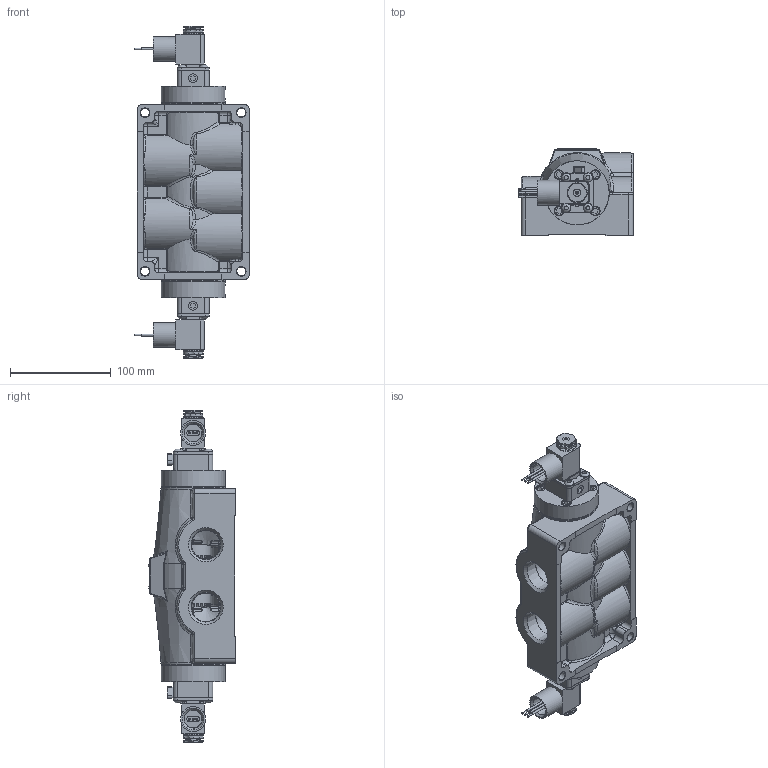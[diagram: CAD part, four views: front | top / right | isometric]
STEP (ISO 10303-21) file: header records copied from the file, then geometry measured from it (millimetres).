
FILE_DESCRIPTION(/* description */ (''),/* implementation_level */ '2;1');
FILE_NAME(/* name */ 'ESS8JOCZ.stp',/* time_stamp */ '2026-09-29T21:46:30-04:00',/* author */ ('rmckenna'),/* organization */ (''),/* preprocessor_version */ 'ST-DEVELOPER v20.2',/* originating_system */ 'Autodesk Inventor 2027',/* authorisation */ '');
FILE_SCHEMA (('AUTOMOTIVE_DESIGN { 1 0 10303 214 3 1 1 }'));
Products named in the file (1): Part180
Bounding box: 113.35 x 86.28 x 328.74 mm (x, y, z)
Volume: 1088452.6 mm3; surface area: 234842.4 mm2
Topology: 1 solids, 41 shells, 3232 faces, 8017 edges, 4946 vertices
Faces by surface type: plane 1209, cylinder 959, cone 376, bspline 356, torus 240, sphere 92
Full cylindrical faces by diameter (mm): 1.168 x20, 1.3 x2, 1.397 x2, 1.5 x2, 1.524 x6, 2.032 x14, 2.07 x2, 2.261 x2, 2.35 x8, 2.388 x2, 2.5 x2, 2.778 x2, 2.8 x2, 3 x8, 3.048 x6, 3.175 x4, 3.4 x2, 3.683 x10, 3.962 x2, 4.191 x4, 4.826 x8, 4.978 x8, 5.15 x8, 5.156 x8, 5.5 x2, 5.556 x2, 6.35 x8, 6.65 x2, 6.747 x8, 7.144 x8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
Entity records: 125144 total; most frequent: CARTESIAN_POINT 46567, ORIENTED_EDGE 15866, DIRECTION 15385, EDGE_CURVE 7933, AXIS2_PLACEMENT_3D 5953, VERTEX_POINT 4944, EDGE_LOOP 3579, LINE 3479
